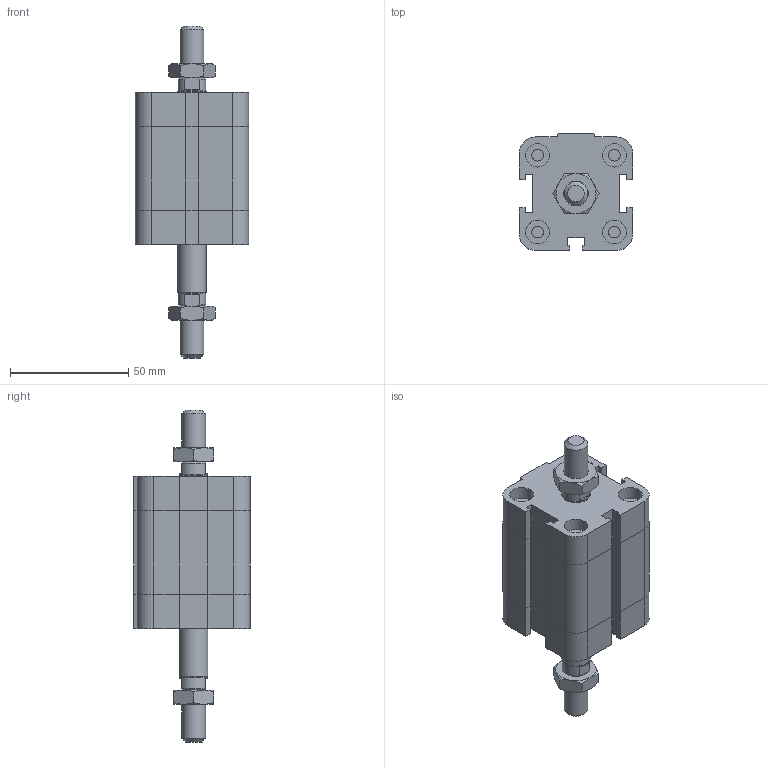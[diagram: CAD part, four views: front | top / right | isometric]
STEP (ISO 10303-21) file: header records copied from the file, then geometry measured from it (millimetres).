
FILE_DESCRIPTION((''),'2;1');
FILE_NAME('I:\Area Tecnica\Disegni\VARIE-3D\Componenti\EUROPE\15##_###_####_04_#\1561_32_0020_04_1.iam.stp','2009-04-20T14:44:57',(''),(''),'Autodesk Inventor 2009','Autodesk Inventor 2009','');
FILE_SCHEMA(('AUTOMOTIVE_DESIGN { 1 0 10303 214 1 1 1 1 }'));
Length unit declared in the file: millimetre
Products named in the file (4): 1561_32_0020_04_1; 1561_32_0020_03_1_C; 1561_32_0020_04_1_S; DBFM10
Assembly tree (4 placements, depth 2):
  1561_32_0020_04_1
    1561_32_0020_03_1_C
    1561_32_0020_04_1_S
    DBFM10  x2
Bounding box: 48 x 49.5 x 140.5 mm (x, y, z)
Volume: 137907.5 mm3; surface area: 31742.5 mm2
Topology: 4 solids, 4 shells, 222 faces, 483 edges, 289 vertices
Faces by surface type: plane 129, cone 35, bspline 33, cylinder 25
Full cylindrical faces by diameter (mm): 4.917 x4, 8.8 x1, 10 x5, 11.7 x2, 12 x1
Entity records: 5450 total; most frequent: CARTESIAN_POINT 1222, DIRECTION 802, ORIENTED_EDGE 772, EDGE_CURVE 386, AXIS2_PLACEMENT_3D 272, EDGE_LOOP 258, VECTOR 258, LINE 258
